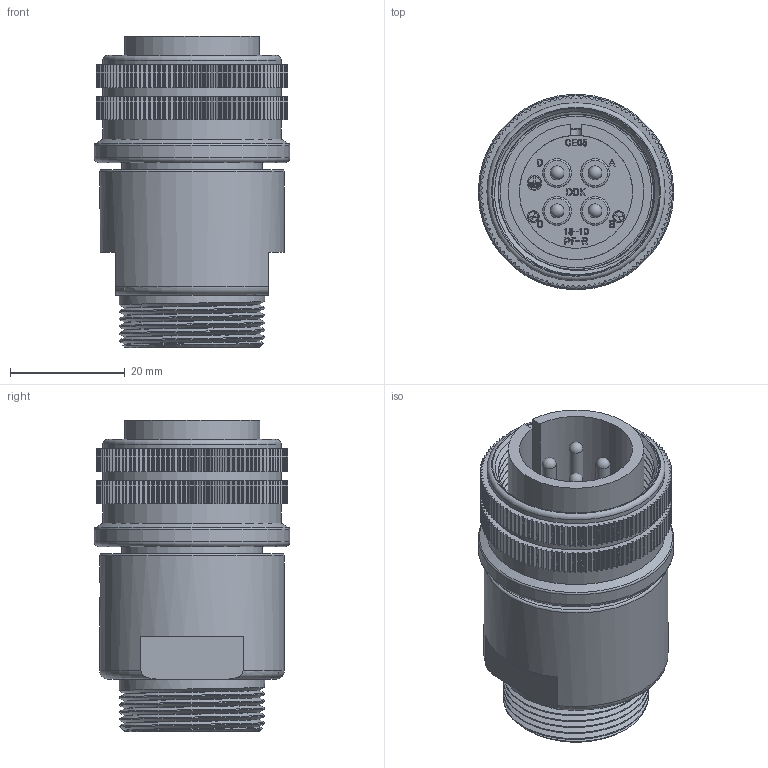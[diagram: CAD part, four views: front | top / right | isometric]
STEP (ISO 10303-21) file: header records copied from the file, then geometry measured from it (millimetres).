
FILE_DESCRIPTION (( 'STEP AP203' ), '1' );
FILE_NAME ('CE05-6A18-10PD-D-BSS.STEP', '2021-05-25T02:07:56', ( '' ), ( '' ), 'SwSTEP 2.0', 'SolidWorks 2018', '' );
FILE_SCHEMA (( 'CONFIG_CONTROL_DESIGN' ));
Length unit declared in the file: millimetre
Products named in the file (1): CE05-6A18-10PD-D-BSS
Bounding box: 34.08 x 34.08 x 54.22 mm (x, y, z)
Volume: 22578.8 mm3; surface area: 16654.3 mm2
Topology: 1 solids, 1 shells, 2294 faces, 6624 edges, 4443 vertices
Faces by surface type: cylinder 980, plane 927, bspline 359, torus 16, cone 8, sphere 4
Full cylindrical faces by diameter (mm): 1.7 x2, 2.1 x2, 2.41 x4, 2.6 x2, 2.7 x4, 3.3 x4, 3.4 x3, 4.8 x3, 5 x4, 16.22 x1, 19.72 x1, 20.45 x1, 21.022 x1, 22.4 x1, 24.53 x1, 25.31 x5, 25.43 x1, 26.4 x1, 27.02 x1, 27.83 x1, 31.04 x3, 32.1 x1, 34.08 x1
Entity records: 90877 total; most frequent: CARTESIAN_POINT 31886, ORIENTED_EDGE 13034, DIRECTION 11467, EDGE_CURVE 6517, VERTEX_POINT 4413, AXIS2_PLACEMENT_3D 3898, LINE 3671, VECTOR 3671
